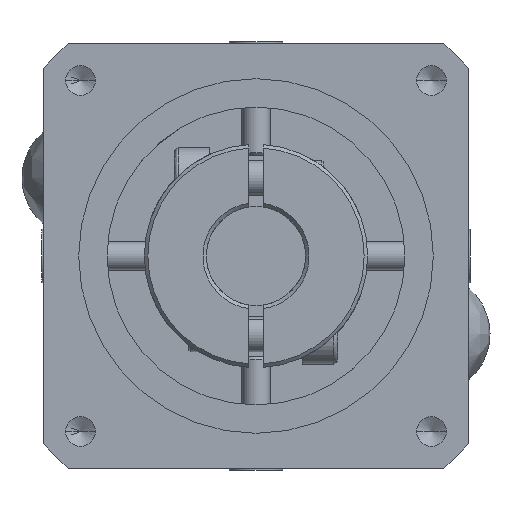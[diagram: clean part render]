
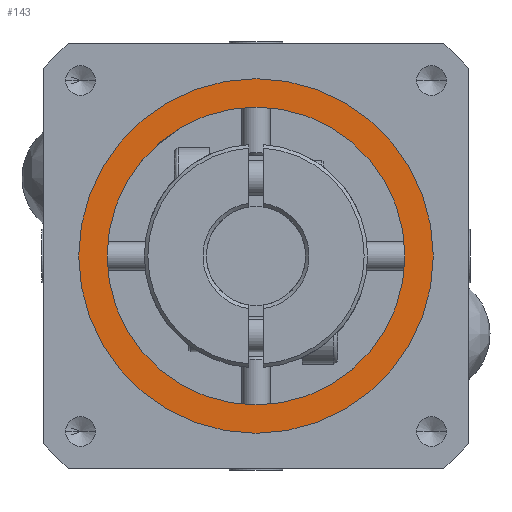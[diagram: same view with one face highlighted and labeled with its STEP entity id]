
A CAD part, left-side view. The second image highlights one B-rep face of the part: STEP entity #143.
In plain terms, the highlighted planar face has unit normal (-1, 0, 0) as drawn and (0, 0, 1) by its records, which use the part's own axes.
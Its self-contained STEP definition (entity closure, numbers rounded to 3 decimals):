
#143 = ADVANCED_FACE ( 'NONE', ( #5200, #7023 ), #4279, .T. ) ;
#176 = ORIENTED_EDGE ( 'NONE', *, *, #1725, .T. ) ;
#178 = VERTEX_POINT ( 'NONE', #7053 ) ;
#606 = AXIS2_PLACEMENT_3D ( 'NONE', #6632, #7324, #7354 ) ;
#643 = CIRCLE ( 'NONE', #606, 25. ) ;
#912 = CARTESIAN_POINT ( 'NONE',  ( -21., 0., 26.5 ) ) ;
#1191 = DIRECTION ( 'NONE',  ( 1., 0., 0. ) ) ;
#1263 = ORIENTED_EDGE ( 'NONE', *, *, #1360, .T. ) ;
#1301 = DIRECTION ( 'NONE',  ( 1., 0., 0. ) ) ;
#1360 = EDGE_CURVE ( 'NONE', #3504, #3753, #4873, .T. ) ;
#1725 = EDGE_CURVE ( 'NONE', #3753, #3504, #5624, .T. ) ;
#2115 = AXIS2_PLACEMENT_3D ( 'NONE', #6247, #5660, #6310 ) ;
#2456 = AXIS2_PLACEMENT_3D ( 'NONE', #7026, #2963, #3605 ) ;
#2963 = DIRECTION ( 'NONE',  ( 0., 0., 1. ) ) ;
#3077 = CARTESIAN_POINT ( 'NONE',  ( 25., 0., 26.5 ) ) ;
#3504 = VERTEX_POINT ( 'NONE', #3875 ) ;
#3605 = DIRECTION ( 'NONE',  ( 1., 0., 0. ) ) ;
#3638 = EDGE_LOOP ( 'NONE', ( #1263, #176 ) ) ;
#3648 = EDGE_CURVE ( 'NONE', #178, #5516, #643, .T. ) ;
#3753 = VERTEX_POINT ( 'NONE', #912 ) ;
#3875 = CARTESIAN_POINT ( 'NONE',  ( 21., 0., 26.5 ) ) ;
#4073 = CIRCLE ( 'NONE', #6708, 25. ) ;
#4279 = PLANE ( 'NONE',  #2456 ) ;
#4293 = ORIENTED_EDGE ( 'NONE', *, *, #4511, .T. ) ;
#4511 = EDGE_CURVE ( 'NONE', #5516, #178, #4073, .T. ) ;
#4611 = CARTESIAN_POINT ( 'NONE',  ( 0., 0., 26.5 ) ) ;
#4873 = CIRCLE ( 'NONE', #6626, 21. ) ;
#5200 = FACE_OUTER_BOUND ( 'NONE', #6519, .T. ) ;
#5516 = VERTEX_POINT ( 'NONE', #3077 ) ;
#5624 = CIRCLE ( 'NONE', #2115, 21. ) ;
#5660 = DIRECTION ( 'NONE',  ( 0., 0., -1. ) ) ;
#6060 = DIRECTION ( 'NONE',  ( 0., 0., 1. ) ) ;
#6247 = CARTESIAN_POINT ( 'NONE',  ( 0., 0., 26.5 ) ) ;
#6310 = DIRECTION ( 'NONE',  ( 1., 0., 0. ) ) ;
#6519 = EDGE_LOOP ( 'NONE', ( #4293, #7279 ) ) ;
#6584 = DIRECTION ( 'NONE',  ( 0., 0., -1. ) ) ;
#6626 = AXIS2_PLACEMENT_3D ( 'NONE', #7251, #6584, #1191 ) ;
#6632 = CARTESIAN_POINT ( 'NONE',  ( 0., 0., 26.5 ) ) ;
#6708 = AXIS2_PLACEMENT_3D ( 'NONE', #4611, #6060, #1301 ) ;
#7023 = FACE_BOUND ( 'NONE', #3638, .T. ) ;
#7026 = CARTESIAN_POINT ( 'NONE',  ( 0., 0., 26.5 ) ) ;
#7053 = CARTESIAN_POINT ( 'NONE',  ( -25., 0., 26.5 ) ) ;
#7251 = CARTESIAN_POINT ( 'NONE',  ( 0., 0., 26.5 ) ) ;
#7279 = ORIENTED_EDGE ( 'NONE', *, *, #3648, .T. ) ;
#7324 = DIRECTION ( 'NONE',  ( 0., 0., 1. ) ) ;
#7354 = DIRECTION ( 'NONE',  ( 1., 0., 0. ) ) ;
